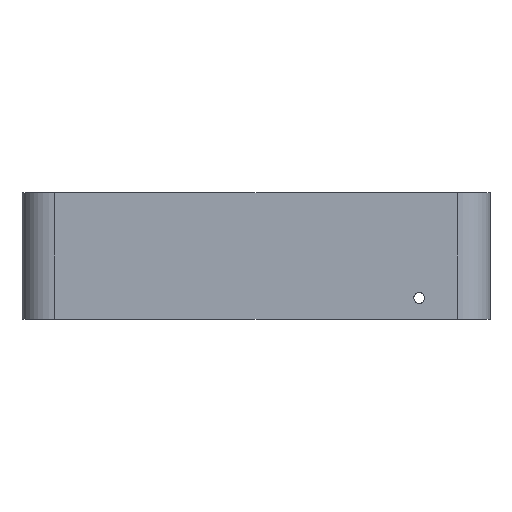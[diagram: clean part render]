
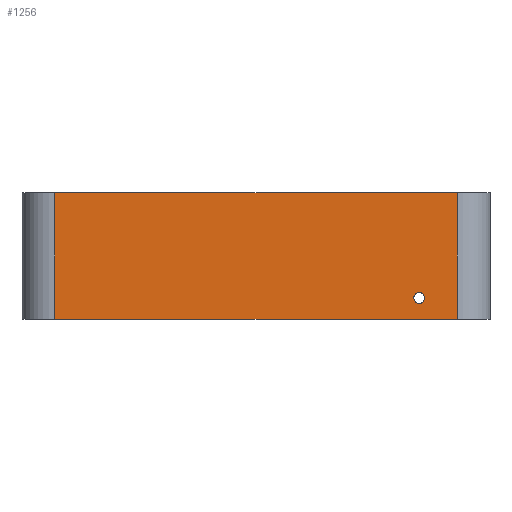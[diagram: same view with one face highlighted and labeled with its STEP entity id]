
A CAD part, left-side view. The second image highlights one B-rep face of the part: STEP entity #1256.
In plain terms, the highlighted planar face has unit normal (-1, 0, 0).
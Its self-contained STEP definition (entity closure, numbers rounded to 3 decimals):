
#44 = PLANE('',#45);
#45 = AXIS2_PLACEMENT_3D('',#46,#47,#48);
#46 = CARTESIAN_POINT('',(0.,0.,43.));
#47 = DIRECTION('',(0.,0.,1.));
#48 = DIRECTION('',(1.,0.,-0.));
#72 = CYLINDRICAL_SURFACE('',#73,30.);
#73 = AXIS2_PLACEMENT_3D('',#74,#75,#76);
#74 = CARTESIAN_POINT('',(-130.,-185.,43.));
#75 = DIRECTION('',(0.,0.,1.));
#76 = DIRECTION('',(0.,-1.,0.));
#100 = PLANE('',#101);
#101 = AXIS2_PLACEMENT_3D('',#102,#103,#104);
#102 = CARTESIAN_POINT('',(0.,0.,159.));
#103 = DIRECTION('',(0.,0.,1.));
#104 = DIRECTION('',(1.,0.,-0.));
#358 = VERTEX_POINT('',#359);
#359 = CARTESIAN_POINT('',(-160.,185.,43.));
#374 = CYLINDRICAL_SURFACE('',#375,30.);
#375 = AXIS2_PLACEMENT_3D('',#376,#377,#378);
#376 = CARTESIAN_POINT('',(-130.,185.,43.));
#377 = DIRECTION('',(0.,0.,1.));
#378 = DIRECTION('',(-0.,1.,0.));
#386 = EDGE_CURVE('',#358,#387,#389,.T.);
#387 = VERTEX_POINT('',#388);
#388 = CARTESIAN_POINT('',(-160.,-185.,43.));
#389 = SURFACE_CURVE('',#390,(#394,#401),.PCURVE_S1.);
#390 = LINE('',#391,#392);
#391 = CARTESIAN_POINT('',(-160.,215.,43.));
#392 = VECTOR('',#393,1.);
#393 = DIRECTION('',(0.,-1.,0.));
#394 = PCURVE('',#44,#395);
#395 = DEFINITIONAL_REPRESENTATION('',(#396),#400);
#396 = LINE('',#397,#398);
#397 = CARTESIAN_POINT('',(-160.,215.));
#398 = VECTOR('',#399,1.);
#399 = DIRECTION('',(0.,-1.));
#400 = ( GEOMETRIC_REPRESENTATION_CONTEXT(2) 
PARAMETRIC_REPRESENTATION_CONTEXT() REPRESENTATION_CONTEXT('2D SPACE',''
  ) );
#401 = PCURVE('',#402,#407);
#402 = PLANE('',#403);
#403 = AXIS2_PLACEMENT_3D('',#404,#405,#406);
#404 = CARTESIAN_POINT('',(-160.,215.,43.));
#405 = DIRECTION('',(1.,0.,-0.));
#406 = DIRECTION('',(0.,-1.,0.));
#407 = DEFINITIONAL_REPRESENTATION('',(#408),#412);
#408 = LINE('',#409,#410);
#409 = CARTESIAN_POINT('',(0.,0.));
#410 = VECTOR('',#411,1.);
#411 = DIRECTION('',(1.,0.));
#412 = ( GEOMETRIC_REPRESENTATION_CONTEXT(2) 
PARAMETRIC_REPRESENTATION_CONTEXT() REPRESENTATION_CONTEXT('2D SPACE',''
  ) );
#666 = EDGE_CURVE('',#387,#667,#669,.T.);
#667 = VERTEX_POINT('',#668);
#668 = CARTESIAN_POINT('',(-160.,-185.,159.));
#669 = SURFACE_CURVE('',#670,(#674,#681),.PCURVE_S1.);
#670 = LINE('',#671,#672);
#671 = CARTESIAN_POINT('',(-160.,-185.,43.));
#672 = VECTOR('',#673,1.);
#673 = DIRECTION('',(0.,0.,1.));
#674 = PCURVE('',#72,#675);
#675 = DEFINITIONAL_REPRESENTATION('',(#676),#680);
#676 = LINE('',#677,#678);
#677 = CARTESIAN_POINT('',(-1.571,0.));
#678 = VECTOR('',#679,1.);
#679 = DIRECTION('',(-0.,1.));
#680 = ( GEOMETRIC_REPRESENTATION_CONTEXT(2) 
PARAMETRIC_REPRESENTATION_CONTEXT() REPRESENTATION_CONTEXT('2D SPACE',''
  ) );
#681 = PCURVE('',#402,#682);
#682 = DEFINITIONAL_REPRESENTATION('',(#683),#687);
#683 = LINE('',#684,#685);
#684 = CARTESIAN_POINT('',(400.,0.));
#685 = VECTOR('',#686,1.);
#686 = DIRECTION('',(0.,-1.));
#687 = ( GEOMETRIC_REPRESENTATION_CONTEXT(2) 
PARAMETRIC_REPRESENTATION_CONTEXT() REPRESENTATION_CONTEXT('2D SPACE',''
  ) );
#842 = VERTEX_POINT('',#843);
#843 = CARTESIAN_POINT('',(-160.,185.,159.));
#865 = EDGE_CURVE('',#842,#667,#866,.T.);
#866 = SURFACE_CURVE('',#867,(#871,#878),.PCURVE_S1.);
#867 = LINE('',#868,#869);
#868 = CARTESIAN_POINT('',(-160.,215.,159.));
#869 = VECTOR('',#870,1.);
#870 = DIRECTION('',(0.,-1.,0.));
#871 = PCURVE('',#100,#872);
#872 = DEFINITIONAL_REPRESENTATION('',(#873),#877);
#873 = LINE('',#874,#875);
#874 = CARTESIAN_POINT('',(-160.,215.));
#875 = VECTOR('',#876,1.);
#876 = DIRECTION('',(0.,-1.));
#877 = ( GEOMETRIC_REPRESENTATION_CONTEXT(2) 
PARAMETRIC_REPRESENTATION_CONTEXT() REPRESENTATION_CONTEXT('2D SPACE',''
  ) );
#878 = PCURVE('',#402,#879);
#879 = DEFINITIONAL_REPRESENTATION('',(#880),#884);
#880 = LINE('',#881,#882);
#881 = CARTESIAN_POINT('',(0.,-116.));
#882 = VECTOR('',#883,1.);
#883 = DIRECTION('',(1.,0.));
#884 = ( GEOMETRIC_REPRESENTATION_CONTEXT(2) 
PARAMETRIC_REPRESENTATION_CONTEXT() REPRESENTATION_CONTEXT('2D SPACE',''
  ) );
#1256 = ADVANCED_FACE('',(#1257,#1283),#402,.F.);
#1257 = FACE_BOUND('',#1258,.F.);
#1258 = EDGE_LOOP('',(#1259,#1260,#1281,#1282));
#1259 = ORIENTED_EDGE('',*,*,#386,.F.);
#1260 = ORIENTED_EDGE('',*,*,#1261,.T.);
#1261 = EDGE_CURVE('',#358,#842,#1262,.T.);
#1262 = SURFACE_CURVE('',#1263,(#1267,#1274),.PCURVE_S1.);
#1263 = LINE('',#1264,#1265);
#1264 = CARTESIAN_POINT('',(-160.,185.,43.));
#1265 = VECTOR('',#1266,1.);
#1266 = DIRECTION('',(0.,0.,1.));
#1267 = PCURVE('',#402,#1268);
#1268 = DEFINITIONAL_REPRESENTATION('',(#1269),#1273);
#1269 = LINE('',#1270,#1271);
#1270 = CARTESIAN_POINT('',(30.,0.));
#1271 = VECTOR('',#1272,1.);
#1272 = DIRECTION('',(0.,-1.));
#1273 = ( GEOMETRIC_REPRESENTATION_CONTEXT(2) 
PARAMETRIC_REPRESENTATION_CONTEXT() REPRESENTATION_CONTEXT('2D SPACE',''
  ) );
#1274 = PCURVE('',#374,#1275);
#1275 = DEFINITIONAL_REPRESENTATION('',(#1276),#1280);
#1276 = LINE('',#1277,#1278);
#1277 = CARTESIAN_POINT('',(1.571,0.));
#1278 = VECTOR('',#1279,1.);
#1279 = DIRECTION('',(0.,1.));
#1280 = ( GEOMETRIC_REPRESENTATION_CONTEXT(2) 
PARAMETRIC_REPRESENTATION_CONTEXT() REPRESENTATION_CONTEXT('2D SPACE',''
  ) );
#1281 = ORIENTED_EDGE('',*,*,#865,.T.);
#1282 = ORIENTED_EDGE('',*,*,#666,.F.);
#1283 = FACE_BOUND('',#1284,.F.);
#1284 = EDGE_LOOP('',(#1285));
#1285 = ORIENTED_EDGE('',*,*,#1286,.T.);
#1286 = EDGE_CURVE('',#1287,#1287,#1289,.T.);
#1287 = VERTEX_POINT('',#1288);
#1288 = CARTESIAN_POINT('',(-160.,-145.,62.5));
#1289 = SURFACE_CURVE('',#1290,(#1295,#1306),.PCURVE_S1.);
#1290 = CIRCLE('',#1291,5.);
#1291 = AXIS2_PLACEMENT_3D('',#1292,#1293,#1294);
#1292 = CARTESIAN_POINT('',(-160.,-150.,62.5));
#1293 = DIRECTION('',(-1.,0.,0.));
#1294 = DIRECTION('',(0.,1.,0.));
#1295 = PCURVE('',#402,#1296);
#1296 = DEFINITIONAL_REPRESENTATION('',(#1297),#1305);
#1297 = ( BOUNDED_CURVE() B_SPLINE_CURVE(2,(#1298,#1299,#1300,#1301,
#1302,#1303,#1304),.UNSPECIFIED.,.T.,.F.) B_SPLINE_CURVE_WITH_KNOTS((1,2
    ,2,2,2,1),(-2.094,0.,2.094,4.189,
6.283,8.378),.UNSPECIFIED.) CURVE() 
GEOMETRIC_REPRESENTATION_ITEM() RATIONAL_B_SPLINE_CURVE((1.,0.5,1.,0.5,
1.,0.5,1.)) REPRESENTATION_ITEM('') );
#1298 = CARTESIAN_POINT('',(360.,-19.5));
#1299 = CARTESIAN_POINT('',(360.,-10.84));
#1300 = CARTESIAN_POINT('',(367.5,-15.17));
#1301 = CARTESIAN_POINT('',(375.,-19.5));
#1302 = CARTESIAN_POINT('',(367.5,-23.83));
#1303 = CARTESIAN_POINT('',(360.,-28.16));
#1304 = CARTESIAN_POINT('',(360.,-19.5));
#1305 = ( GEOMETRIC_REPRESENTATION_CONTEXT(2) 
PARAMETRIC_REPRESENTATION_CONTEXT() REPRESENTATION_CONTEXT('2D SPACE',''
  ) );
#1306 = PCURVE('',#1307,#1312);
#1307 = CYLINDRICAL_SURFACE('',#1308,5.);
#1308 = AXIS2_PLACEMENT_3D('',#1309,#1310,#1311);
#1309 = CARTESIAN_POINT('',(-161.,-150.,62.5));
#1310 = DIRECTION('',(-1.,-0.,-0.));
#1311 = DIRECTION('',(0.,1.,0.));
#1312 = DEFINITIONAL_REPRESENTATION('',(#1313),#1317);
#1313 = LINE('',#1314,#1315);
#1314 = CARTESIAN_POINT('',(-6.283,-1.));
#1315 = VECTOR('',#1316,1.);
#1316 = DIRECTION('',(1.,-0.));
#1317 = ( GEOMETRIC_REPRESENTATION_CONTEXT(2) 
PARAMETRIC_REPRESENTATION_CONTEXT() REPRESENTATION_CONTEXT('2D SPACE',''
  ) );
